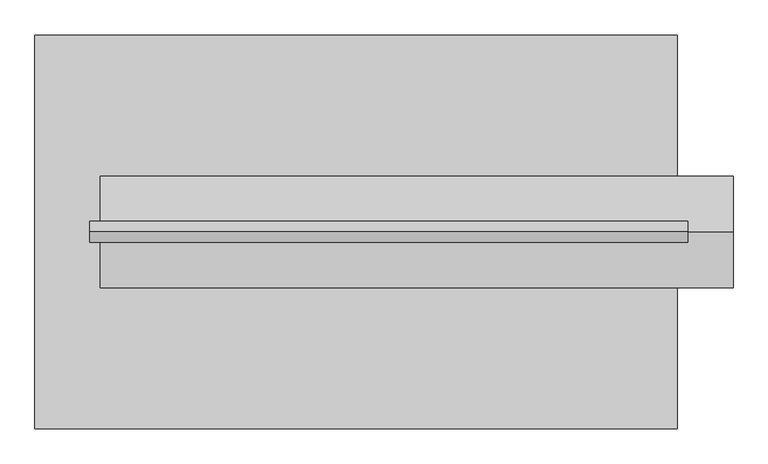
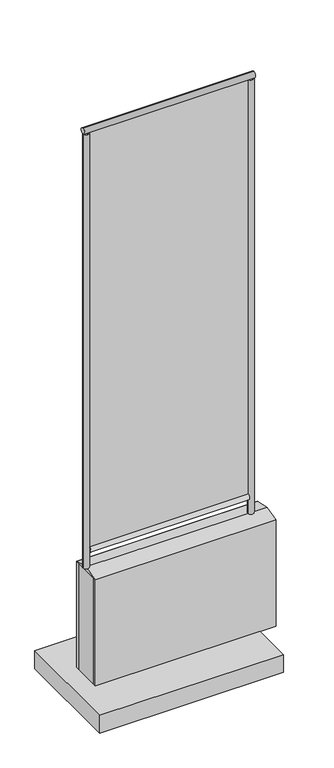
"""IFC4 building model written with IfcOpenShell, lengths in millimetres: plate geometry, FDE_FQ01_FechamentoParaQuadradeEsportes : FQ01_LateraisSapata."""

from ifc_helpers import new_model, si_unit, point, frame, frame_2d, origin, place, context, project, spatial, polyline, circle_curve, trimmed, segment, composite_curve, outline, extrude, source, transform, mapped, element, save


def plate_0e4e2798(model_context):
    return source(origin(), model_context, "Body", "SweptSolid", [
        extrude(outline(composite_curve([segment(trimmed(circle_curve(frame_2d((-439.9999998, 0.0)), 16.0), [point((-455.9999998, 0.0))], [point((-423.9999998, 0.0))], False, "CARTESIAN"), True, "CONTINUOUS"), segment(trimmed(circle_curve(frame_2d((-439.9999998, 0.0)), 16.0), [point((-423.9999998, 0.0))], [point((-455.9999998, 0.0))], False, "CARTESIAN"), True, "CONTINUOUS")], self_intersect=False)), frame((0.0, 0.0, 920.0), z_axis=(0.0, 0.0, 1.0), x_axis=(1.0, 0.0, 0.0)), (0.0, 0.0, 1.0), 2448.0),
        extrude(outline(composite_curve([segment(trimmed(circle_curve(frame_2d((439.9999998, 0.0)), 16.0), [point((423.9999998, 0.0))], [point((455.9999998, 0.0))], False, "CARTESIAN"), True, "CONTINUOUS"), segment(trimmed(circle_curve(frame_2d((439.9999998, 0.0)), 16.0), [point((455.9999998, 0.0))], [point((423.9999998, 0.0))], False, "CARTESIAN"), True, "CONTINUOUS")], self_intersect=False)), frame((0.0, 0.0, 920.0), z_axis=(0.0, 0.0, 1.0), x_axis=(1.0, 0.0, 0.0)), (0.0, 0.0, 1.0), 2448.0),
        extrude(outline(polyline([(439.9999998, 300.0), (439.9999998, -300.0), (-539.9999998, -300.0), (-539.9999998, 300.0), (439.9999998, 300.0)])), frame((0.0, 0.0, 200.0), z_axis=(0.0, 0.0, 1.0), x_axis=(1.0, 0.0, 0.0)), (0.0, 0.0, 1.0), 100.0),
        extrude(outline(polyline([(85.0, 900.0), (-85.0, 900.0), (0.0, 920.0), (85.0, 900.0)])), frame((-439.9999998, 0.0, 0.0), z_axis=(1.0, 0.0, 0.0), x_axis=(0.0, 1.0, 0.0)), (0.0, 0.0, 1.0), 964.9999997),
        extrude(outline(polyline([(-439.9999998, -85.0), (-439.9999998, -70.0), (524.9999998, -70.0), (524.9999998, -85.0), (-439.9999998, -85.0)])), frame((0.0, 0.0, 300.0), z_axis=(0.0, 0.0, 1.0), x_axis=(1.0, 0.0, 0.0)), (0.0, 0.0, 1.0), 600.0),
        extrude(outline(polyline([(-439.9999998, 70.0), (-439.9999998, 85.0), (524.9999998, 85.0), (524.9999998, 70.0), (-439.9999998, 70.0)])), frame((0.0, 0.0, 300.0), z_axis=(0.0, 0.0, 1.0), x_axis=(1.0, 0.0, 0.0)), (0.0, 0.0, 1.0), 600.0),
        extrude(outline(polyline([(524.9999998, 70.0), (524.9999998, -70.0), (-439.9999998, -70.0), (-439.9999998, 70.0), (524.9999998, 70.0)])), frame((0.0, 0.0, 300.0), z_axis=(0.0, 0.0, 1.0), x_axis=(1.0, 0.0, 0.0)), (0.0, 0.0, 1.0), 600.0),
        extrude(outline(polyline([(423.9999998, -5.0), (-423.9999998, -5.0), (-423.9999998, 5.0), (423.9999998, 5.0), (423.9999998, -5.0)])), frame((0.0, 0.0, 1032.0), z_axis=(0.0, 0.0, 1.0), x_axis=(1.0, 0.0, 0.0)), (0.0, 0.0, 1.0), 2336.0),
        extrude(outline(composite_curve([segment(trimmed(circle_curve(frame_2d((0.0, 1016.0)), 16.0), [point((0.0, 1032.0))], [point((0.0, 1000.0))], False, "CARTESIAN"), True, "CONTINUOUS"), segment(trimmed(circle_curve(frame_2d((0.0, 1016.0)), 16.0), [point((0.0, 1000.0))], [point((0.0, 1032.0))], False, "CARTESIAN"), True, "CONTINUOUS")], self_intersect=False)), frame((-423.9999998, 0.0, 0.0), z_axis=(1.0, 0.0, 0.0), x_axis=(0.0, 1.0, 0.0)), (0.0, 0.0, 1.0), 847.9999997),
        extrude(outline(composite_curve([segment(trimmed(circle_curve(frame_2d((0.0, 3384.0)), 16.0), [point((0.0, 3368.0))], [point((0.0, 3400.0))], False, "CARTESIAN"), True, "CONTINUOUS"), segment(trimmed(circle_curve(frame_2d((0.0, 3384.0)), 16.0), [point((0.0, 3400.0))], [point((0.0, 3368.0))], False, "CARTESIAN"), True, "CONTINUOUS")], self_intersect=False)), frame((-455.9999998, 0.0, 0.0), z_axis=(1.0, 0.0, 0.0), x_axis=(0.0, 1.0, 0.0)), (0.0, 0.0, 1.0), 911.9999997),
    ])


if __name__ == "__main__":
    model = new_model("IFC4")
    model_context = context("Model", 3, world=origin())
    ifc_project = project(units=[si_unit("LENGTHUNIT", "METRE", prefix="MILLI")], contexts=[model_context])
    site = spatial("IfcSite", under=ifc_project)
    building = spatial("IfcBuilding", under=site)
    placement = place(None, origin())
    plate_shape = plate_0e4e2798(model_context)
    element("IfcPlate", 1, ObjectType="FDE_FQ01_FechamentoParaQuadradeEsportes : FQ01_LateraisSapata", at=placement, inside=building, context=model_context, shape_type="MappedRepresentation", body=[
        mapped(plate_shape, transform((0.0, 0.0, 0.0), x_axis=(1.0, 0.0, 0.0), y_axis=(0.0, 1.0, 0.0), z_axis=(0.0, 0.0, 1.0))),
    ])
    save(model, "model.ifc")
